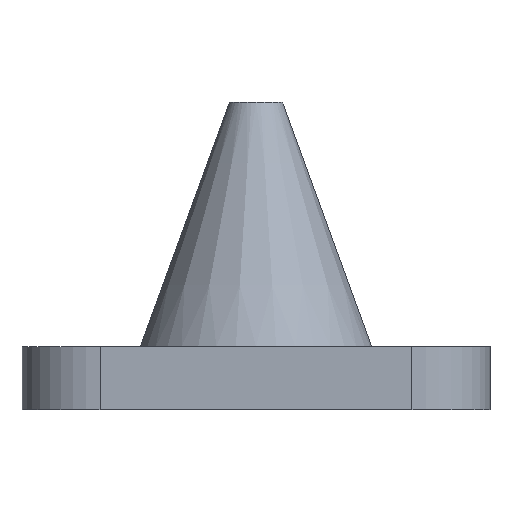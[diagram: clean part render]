
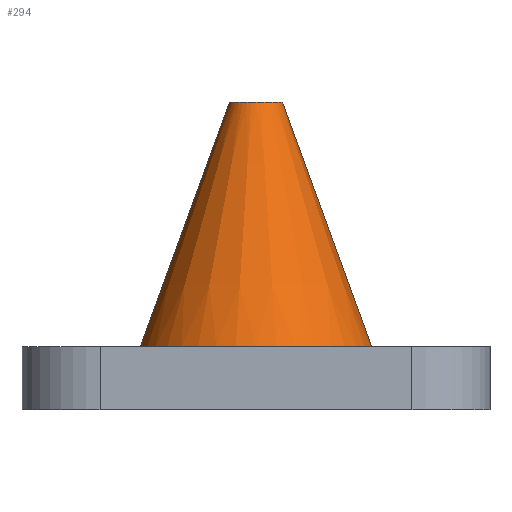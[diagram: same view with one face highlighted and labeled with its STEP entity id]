
A CAD part, left-side view. The second image highlights one B-rep face of the part: STEP entity #294.
In plain terms, the highlighted conical face has half-angle 20.027 degrees and reference radius 5.394 mm.
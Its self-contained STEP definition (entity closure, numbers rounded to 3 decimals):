
#9 = VECTOR ( 'NONE', #472, 1000. ) ;
#21 = LINE ( 'NONE', #471, #37 ) ;
#24 = LINE ( 'NONE', #484, #9 ) ;
#37 = VECTOR ( 'NONE', #492, 1000. ) ;
#78 = CIRCLE ( 'NONE', #697, 2.726 ) ;
#93 = CIRCLE ( 'NONE', #732, 11.865 ) ;
#104 = VERTEX_POINT ( 'NONE', #375 ) ;
#146 = EDGE_LOOP ( 'NONE', ( #927, #898, #915, #867 ) ) ;
#147 = VERTEX_POINT ( 'NONE', #617 ) ;
#162 = VERTEX_POINT ( 'NONE', #678 ) ;
#170 = VERTEX_POINT ( 'NONE', #445 ) ;
#224 = CONICAL_SURFACE ( 'NONE', #742, 5.394, 0.35 ) ;
#237 = FACE_OUTER_BOUND ( 'NONE', #146, .T. ) ;
#294 = ADVANCED_FACE ( 'NONE', ( #237 ), #224, .T. ) ;
#373 = DIRECTION ( 'NONE',  ( 1., 0., 0. ) ) ;
#374 = DIRECTION ( 'NONE',  ( 0., 0., 1. ) ) ;
#375 = CARTESIAN_POINT ( 'NONE',  ( -39., -2.726, 25.072 ) ) ;
#376 = CARTESIAN_POINT ( 'NONE',  ( -39., 0., 25.072 ) ) ;
#395 = DIRECTION ( 'NONE',  ( 0., 1., 0. ) ) ;
#402 = DIRECTION ( 'NONE',  ( 0., 0., -1. ) ) ;
#403 = CARTESIAN_POINT ( 'NONE',  ( -39., 0., 0. ) ) ;
#445 = CARTESIAN_POINT ( 'NONE',  ( -39., -11.865, 0. ) ) ;
#471 = CARTESIAN_POINT ( 'NONE',  ( -39., -5.394, 17.755 ) ) ;
#472 = DIRECTION ( 'NONE',  ( 0., 0.342, -0.94 ) ) ;
#484 = CARTESIAN_POINT ( 'NONE',  ( -39., 5.394, 17.755 ) ) ;
#492 = DIRECTION ( 'NONE',  ( 0., -0.342, -0.94 ) ) ;
#602 = DIRECTION ( 'NONE',  ( 0., 1., 0. ) ) ;
#617 = CARTESIAN_POINT ( 'NONE',  ( -39., 11.865, 0. ) ) ;
#631 = CARTESIAN_POINT ( 'NONE',  ( -39., 0., 17.755 ) ) ;
#633 = DIRECTION ( 'NONE',  ( 0., 0., -1. ) ) ;
#678 = CARTESIAN_POINT ( 'NONE',  ( -39., 2.726, 25.072 ) ) ;
#697 = AXIS2_PLACEMENT_3D ( 'NONE', #376, #374, #373 ) ;
#732 = AXIS2_PLACEMENT_3D ( 'NONE', #403, #402, #395 ) ;
#742 = AXIS2_PLACEMENT_3D ( 'NONE', #631, #633, #602 ) ;
#784 = EDGE_CURVE ( 'NONE', #104, #170, #21, .T. ) ;
#788 = EDGE_CURVE ( 'NONE', #162, #147, #24, .T. ) ;
#824 = EDGE_CURVE ( 'NONE', #162, #104, #78, .T. ) ;
#830 = EDGE_CURVE ( 'NONE', #170, #147, #93, .T. ) ;
#867 = ORIENTED_EDGE ( 'NONE', *, *, #830, .F. ) ;
#898 = ORIENTED_EDGE ( 'NONE', *, *, #824, .F. ) ;
#915 = ORIENTED_EDGE ( 'NONE', *, *, #788, .T. ) ;
#927 = ORIENTED_EDGE ( 'NONE', *, *, #784, .F. ) ;
